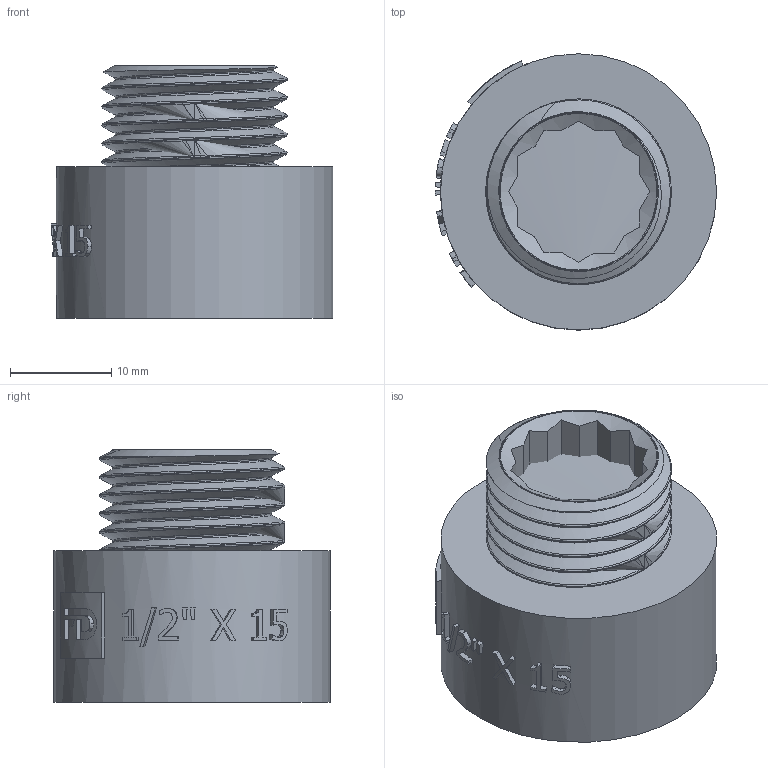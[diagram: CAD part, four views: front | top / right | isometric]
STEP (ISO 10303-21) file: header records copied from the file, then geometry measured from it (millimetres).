
FILE_DESCRIPTION(/* description */ (''),/* implementation_level */ '2;1');
FILE_NAME(/* name */ 'C:\Users\Doom\Desktop\Фадотех\Резьба\UD15 18.03.2020\UD15 18.03.2020.stp',/* time_stamp */ '2022-01-22T10:57:24+02:00',/* author */ ('Doom'),/* organization */ (''),/* preprocessor_version */ 'ST-DEVELOPER v18',/* originating_system */ 'Autodesk Inventor 2020',/* authorisation */ '');
FILE_SCHEMA (('AUTOMOTIVE_DESIGN { 1 0 10303 214 3 1 1 }'));
Length unit declared in the file: millimetre
Products named in the file (1): UD10 18.03.2020
Bounding box: 27.8 x 27.3 x 25 mm (x, y, z)
Volume: 5836.1 mm3; surface area: 7859.8 mm2
Topology: 3 solids, 3 shells, 186 faces, 508 edges, 342 vertices
Faces by surface type: plane 93, bspline 57, cylinder 33, cone 3
Full cylindrical faces by diameter (mm): 15.649 x2, 18.34 x6, 18.393 x5, 19.068 x1, 21.084 x2, 21.5 x1, 27.3 x1
Entity records: 13520 total; most frequent: CARTESIAN_POINT 9243, ORIENTED_EDGE 1016, DIRECTION 673, EDGE_CURVE 508, VERTEX_POINT 342, AXIS2_PLACEMENT_3D 237, EDGE_LOOP 206, LINE 199
